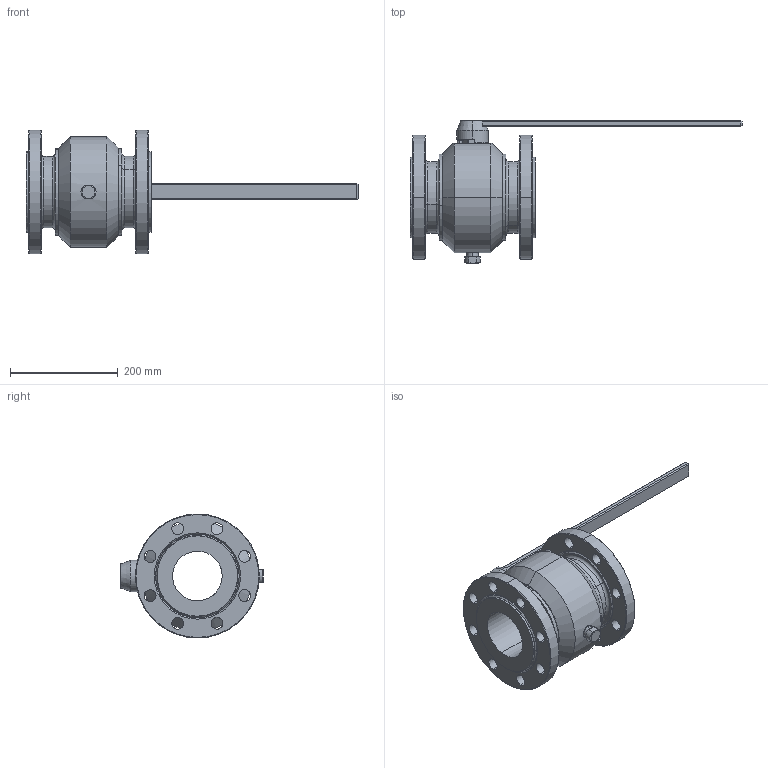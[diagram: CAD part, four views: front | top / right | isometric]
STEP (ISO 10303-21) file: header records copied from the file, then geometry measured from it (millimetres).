
FILE_DESCRIPTION(('STEP AP203'), '1');
FILE_NAME('ZARD 100.025.22.P.stp', '2013-12-09T05:54:42', ('UNSPECIFIED UNSPECIFIED'), ('UNSPECIFIED'), 'ASCON STEP Converter 1.3', 'Kompas 3D', '');
FILE_SCHEMA(('CONFIG_CONTROL_DESIGN','SUPPORT_RESOURCE_SCHEMA'));
Length unit declared in the file: millimetre
Products named in the file (1): 3
Bounding box: 616 x 264 x 230 mm (x, y, z)
Volume: 4454802.9 mm3; surface area: 562930.9 mm2
Topology: 14 solids, 14 shells, 285 faces, 643 edges, 404 vertices
Faces by surface type: cylinder 114, plane 99, cone 64, torus 8
Entity records: 10084 total; most frequent: CARTESIAN_POINT 3263, DIRECTION 1479, ORIENTED_EDGE 1286, EDGE_CURVE 643, AXIS2_PLACEMENT_3D 606, VERTEX_POINT 404, EDGE_LOOP 355, CIRCLE 320
